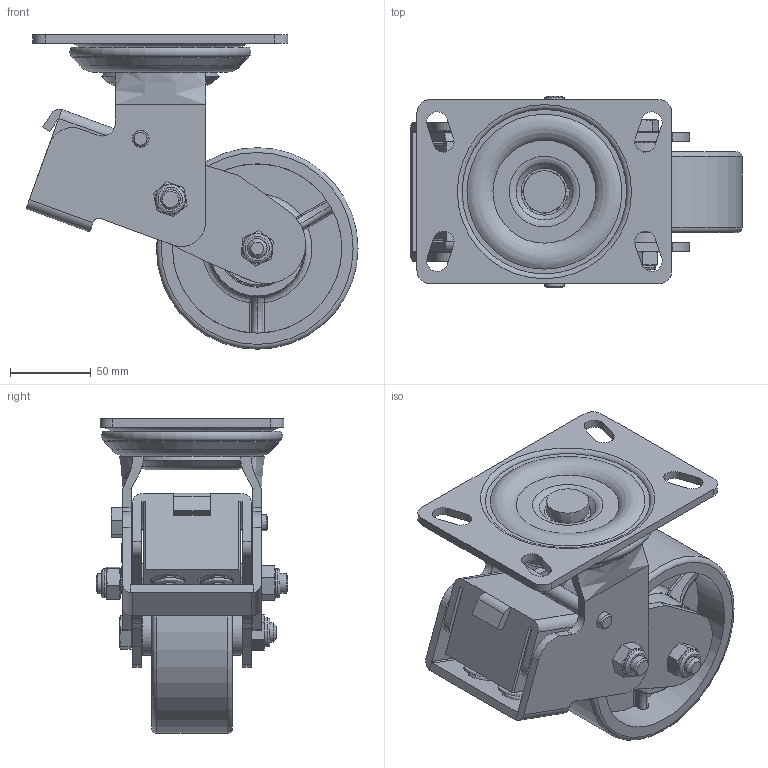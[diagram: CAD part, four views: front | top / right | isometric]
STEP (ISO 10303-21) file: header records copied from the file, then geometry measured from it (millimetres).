
FILE_DESCRIPTION(/* description */ (''),/* implementation_level */ '2;1');
FILE_NAME(/* name */ '45E01_5_F.stp',/* time_stamp */ '2022-08-29T11:20:44+08:00',/* author */ (''),/* organization */ (''),/* preprocessor_version */ 'ST-DEVELOPER v14',/* originating_system */ 'SIEMENS PLM Software NX 8.0',/* authorisation */ '');
FILE_SCHEMA (('AUTOMOTIVE_DESIGN { 1 0 10303 214 3 1 1 1 }'));
Products named in the file (1): 45E01_5_F
Bounding box: 205.84 x 119 x 195 mm (x, y, z)
Surface area: 294880.5 mm2
Topology: 3 solids, 4 shells, 788 faces, 2218 edges, 1447 vertices
Faces by surface type: plane 406, cylinder 142, cone 106, torus 57, sphere 41, bspline 34, extrusion 2
Full cylindrical faces by diameter (mm): 10 x1, 10.5 x2, 12 x6, 12.3 x2, 12.9 x2, 18 x3, 18.8 x2, 19 x1, 19.5 x2, 19.9 x2, 20 x2, 20.5 x1, 22 x2, 28 x2, 30 x4, 40 x4, 42 x1, 45 x1, 47 x4, 60 x2, 105 x2, 125 x1
Entity records: 77914 total; most frequent: CARTESIAN_POINT 60185, ORIENTED_EDGE 3728, DIRECTION 3312, EDGE_CURVE 1864, AXIS2_PLACEMENT_3D 1305, VERTEX_POINT 1280, EDGE_LOOP 1048, ADVANCED_FACE 788
